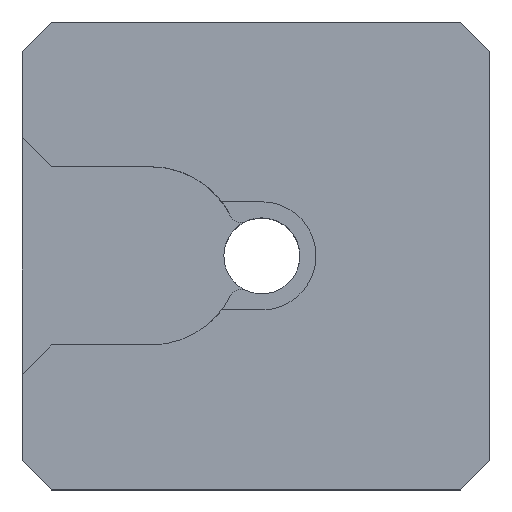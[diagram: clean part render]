
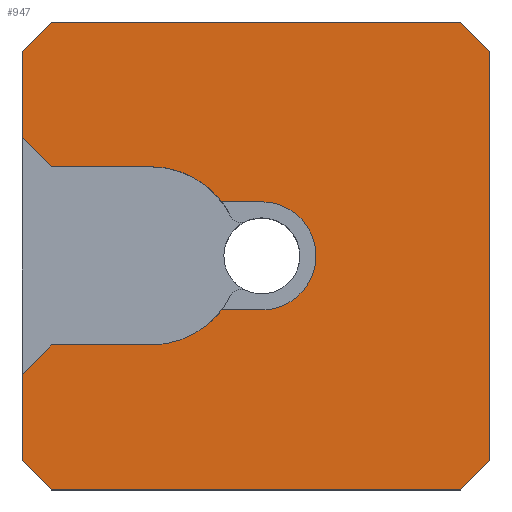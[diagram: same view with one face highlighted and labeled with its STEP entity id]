
A CAD part, top view. The second image highlights one B-rep face of the part: STEP entity #947.
In plain terms, the highlighted planar face has unit normal (0, 0, 1).
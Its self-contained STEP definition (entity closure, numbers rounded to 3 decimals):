
#48=AXIS2_PLACEMENT_3D('Circle Axis2P3D',#46,#47,$) ;
#55=AXIS2_PLACEMENT_3D('Circle Axis2P3D',#53,#54,$) ;
#419=AXIS2_PLACEMENT_3D('Circle Axis2P3D',#417,#418,$) ;
#426=AXIS2_PLACEMENT_3D('Circle Axis2P3D',#424,#425,$) ;
#449=AXIS2_PLACEMENT_3D('Circle Axis2P3D',#447,#448,$) ;
#475=AXIS2_PLACEMENT_3D('Circle Axis2P3D',#473,#474,$) ;
#917=AXIS2_PLACEMENT_3D('Plane Axis2P3D',#914,#915,#916) ;
#43=CARTESIAN_POINT('Vertex',(22.,-55.25,31.5)) ;
#46=CARTESIAN_POINT('Axis2P3D Location',(22.,-40.,31.5)) ;
#50=CARTESIAN_POINT('Vertex',(31.699,-51.768,31.5)) ;
#53=CARTESIAN_POINT('Axis2P3D Location',(22.,-40.,31.5)) ;
#57=CARTESIAN_POINT('Vertex',(34.124,-49.25,31.5)) ;
#262=CARTESIAN_POINT('Line Origine',(37.562,-49.25,31.5)) ;
#266=CARTESIAN_POINT('Vertex',(41.,-49.25,31.5)) ;
#395=CARTESIAN_POINT('Vertex',(22.,-24.75,31.5)) ;
#414=CARTESIAN_POINT('Vertex',(34.124,-30.75,31.5)) ;
#417=CARTESIAN_POINT('Axis2P3D Location',(22.,-40.,31.5)) ;
#421=CARTESIAN_POINT('Vertex',(31.699,-28.232,31.5)) ;
#424=CARTESIAN_POINT('Axis2P3D Location',(22.,-40.,31.5)) ;
#447=CARTESIAN_POINT('Axis2P3D Location',(41.,-40.,31.5)) ;
#451=CARTESIAN_POINT('Vertex',(50.25,-40.,31.5)) ;
#470=CARTESIAN_POINT('Vertex',(41.,-30.75,31.5)) ;
#473=CARTESIAN_POINT('Axis2P3D Location',(41.,-40.,31.5)) ;
#490=CARTESIAN_POINT('Line Origine',(37.562,-30.75,31.5)) ;
#513=CARTESIAN_POINT('Vertex',(5.,-24.75,31.5)) ;
#521=CARTESIAN_POINT('Line Origine',(13.5,-24.75,31.5)) ;
#538=CARTESIAN_POINT('Line Origine',(2.5,-22.25,31.5)) ;
#542=CARTESIAN_POINT('Vertex',(0.,-19.75,31.5)) ;
#611=CARTESIAN_POINT('Line Origine',(13.5,-55.25,31.5)) ;
#615=CARTESIAN_POINT('Vertex',(5.,-55.25,31.5)) ;
#639=CARTESIAN_POINT('Vertex',(0.,-60.25,31.5)) ;
#642=CARTESIAN_POINT('Line Origine',(2.5,-57.75,31.5)) ;
#659=CARTESIAN_POINT('Line Origine',(2.5,-77.5,31.5)) ;
#663=CARTESIAN_POINT('Vertex',(5.,-80.,31.5)) ;
#665=CARTESIAN_POINT('Vertex',(0.,-75.,31.5)) ;
#705=CARTESIAN_POINT('Vertex',(75.,-80.,31.5)) ;
#708=CARTESIAN_POINT('Line Origine',(40.,-80.,31.5)) ;
#741=CARTESIAN_POINT('Vertex',(80.,-75.,31.5)) ;
#744=CARTESIAN_POINT('Line Origine',(77.5,-77.5,31.5)) ;
#761=CARTESIAN_POINT('Line Origine',(80.,-40.,31.5)) ;
#765=CARTESIAN_POINT('Vertex',(80.,-5.,31.5)) ;
#792=CARTESIAN_POINT('Line Origine',(77.5,-2.5,31.5)) ;
#796=CARTESIAN_POINT('Vertex',(75.,0.,31.5)) ;
#830=CARTESIAN_POINT('Line Origine',(0.,-67.625,31.5)) ;
#835=CARTESIAN_POINT('Line Origine',(0.,-12.375,31.5)) ;
#839=CARTESIAN_POINT('Vertex',(0.,-5.,31.5)) ;
#869=CARTESIAN_POINT('Vertex',(5.,0.,31.5)) ;
#872=CARTESIAN_POINT('Line Origine',(40.,0.,31.5)) ;
#914=CARTESIAN_POINT('Axis2P3D Location',(0.,0.,31.5)) ;
#919=CARTESIAN_POINT('Line Origine',(2.5,-2.5,31.5)) ;
#47=DIRECTION('Axis2P3D Direction',(0.,0.,1.)) ;
#54=DIRECTION('Axis2P3D Direction',(0.,0.,1.)) ;
#263=DIRECTION('Vector Direction',(1.,0.,0.)) ;
#418=DIRECTION('Axis2P3D Direction',(0.,0.,1.)) ;
#425=DIRECTION('Axis2P3D Direction',(0.,0.,1.)) ;
#448=DIRECTION('Axis2P3D Direction',(0.,0.,1.)) ;
#474=DIRECTION('Axis2P3D Direction',(0.,0.,1.)) ;
#491=DIRECTION('Vector Direction',(-1.,0.,0.)) ;
#522=DIRECTION('Vector Direction',(-1.,0.,0.)) ;
#539=DIRECTION('Vector Direction',(-0.707,0.707,0.)) ;
#612=DIRECTION('Vector Direction',(-1.,0.,0.)) ;
#643=DIRECTION('Vector Direction',(-0.707,-0.707,0.)) ;
#660=DIRECTION('Vector Direction',(-0.707,0.707,0.)) ;
#709=DIRECTION('Vector Direction',(-1.,0.,0.)) ;
#745=DIRECTION('Vector Direction',(0.707,0.707,0.)) ;
#762=DIRECTION('Vector Direction',(0.,1.,0.)) ;
#793=DIRECTION('Vector Direction',(0.707,-0.707,0.)) ;
#831=DIRECTION('Vector Direction',(0.,-1.,0.)) ;
#836=DIRECTION('Vector Direction',(0.,-1.,0.)) ;
#873=DIRECTION('Vector Direction',(1.,0.,0.)) ;
#915=DIRECTION('Axis2P3D Direction',(0.,0.,1.)) ;
#916=DIRECTION('Axis2P3D XDirection',(1.,0.,0.)) ;
#920=DIRECTION('Vector Direction',(0.707,0.707,0.)) ;
#264=VECTOR('Line Direction',#263,1.) ;
#492=VECTOR('Line Direction',#491,1.) ;
#523=VECTOR('Line Direction',#522,1.) ;
#540=VECTOR('Line Direction',#539,1.) ;
#613=VECTOR('Line Direction',#612,1.) ;
#644=VECTOR('Line Direction',#643,1.) ;
#661=VECTOR('Line Direction',#660,1.) ;
#710=VECTOR('Line Direction',#709,1.) ;
#746=VECTOR('Line Direction',#745,1.) ;
#763=VECTOR('Line Direction',#762,1.) ;
#794=VECTOR('Line Direction',#793,1.) ;
#832=VECTOR('Line Direction',#831,1.) ;
#837=VECTOR('Line Direction',#836,1.) ;
#874=VECTOR('Line Direction',#873,1.) ;
#921=VECTOR('Line Direction',#920,1.) ;
#925=ORIENTED_EDGE('',*,*,#841,.T.) ;
#926=ORIENTED_EDGE('',*,*,#544,.F.) ;
#927=ORIENTED_EDGE('',*,*,#525,.F.) ;
#928=ORIENTED_EDGE('',*,*,#428,.F.) ;
#929=ORIENTED_EDGE('',*,*,#423,.F.) ;
#930=ORIENTED_EDGE('',*,*,#494,.F.) ;
#931=ORIENTED_EDGE('',*,*,#477,.F.) ;
#932=ORIENTED_EDGE('',*,*,#453,.F.) ;
#933=ORIENTED_EDGE('',*,*,#268,.F.) ;
#934=ORIENTED_EDGE('',*,*,#59,.F.) ;
#935=ORIENTED_EDGE('',*,*,#52,.F.) ;
#936=ORIENTED_EDGE('',*,*,#617,.T.) ;
#937=ORIENTED_EDGE('',*,*,#646,.F.) ;
#938=ORIENTED_EDGE('',*,*,#834,.T.) ;
#939=ORIENTED_EDGE('',*,*,#667,.F.) ;
#940=ORIENTED_EDGE('',*,*,#712,.F.) ;
#941=ORIENTED_EDGE('',*,*,#748,.F.) ;
#942=ORIENTED_EDGE('',*,*,#767,.T.) ;
#943=ORIENTED_EDGE('',*,*,#798,.F.) ;
#944=ORIENTED_EDGE('',*,*,#876,.F.) ;
#945=ORIENTED_EDGE('',*,*,#923,.F.) ;
#947=ADVANCED_FACE('\X2\96F64EF651E04F554F53\X0\',(#946),#918,.T.) ;
#49=CIRCLE('generated circle',#48,15.25) ;
#56=CIRCLE('generated circle',#55,15.25) ;
#420=CIRCLE('generated circle',#419,15.25) ;
#427=CIRCLE('generated circle',#426,15.25) ;
#450=CIRCLE('generated circle',#449,9.25) ;
#476=CIRCLE('generated circle',#475,9.25) ;
#52=EDGE_CURVE('',#44,#51,#49,.T.) ;
#59=EDGE_CURVE('',#51,#58,#56,.T.) ;
#268=EDGE_CURVE('',#58,#267,#265,.T.) ;
#423=EDGE_CURVE('',#415,#422,#420,.T.) ;
#428=EDGE_CURVE('',#422,#396,#427,.T.) ;
#453=EDGE_CURVE('',#267,#452,#450,.T.) ;
#477=EDGE_CURVE('',#452,#471,#476,.T.) ;
#494=EDGE_CURVE('',#471,#415,#493,.T.) ;
#525=EDGE_CURVE('',#396,#514,#524,.T.) ;
#544=EDGE_CURVE('',#514,#543,#541,.T.) ;
#617=EDGE_CURVE('',#44,#616,#614,.T.) ;
#646=EDGE_CURVE('',#640,#616,#645,.F.) ;
#667=EDGE_CURVE('',#664,#666,#662,.T.) ;
#712=EDGE_CURVE('',#706,#664,#711,.T.) ;
#748=EDGE_CURVE('',#742,#706,#747,.F.) ;
#767=EDGE_CURVE('',#742,#766,#764,.T.) ;
#798=EDGE_CURVE('',#797,#766,#795,.T.) ;
#834=EDGE_CURVE('',#640,#666,#833,.T.) ;
#841=EDGE_CURVE('',#840,#543,#838,.T.) ;
#876=EDGE_CURVE('',#870,#797,#875,.T.) ;
#923=EDGE_CURVE('',#840,#870,#922,.T.) ;
#924=EDGE_LOOP('',(#925,#926,#927,#928,#929,#930,#931,#932,#933,#934,#935,#936,#937,#938,#939,#940,#941,#942,#943,#944,#945)) ;
#946=FACE_OUTER_BOUND('',#924,.T.) ;
#265=LINE('Line',#262,#264) ;
#493=LINE('Line',#490,#492) ;
#524=LINE('Line',#521,#523) ;
#541=LINE('Line',#538,#540) ;
#614=LINE('Line',#611,#613) ;
#645=LINE('Line',#642,#644) ;
#662=LINE('Line',#659,#661) ;
#711=LINE('Line',#708,#710) ;
#747=LINE('Line',#744,#746) ;
#764=LINE('Line',#761,#763) ;
#795=LINE('Line',#792,#794) ;
#833=LINE('Line',#830,#832) ;
#838=LINE('Line',#835,#837) ;
#875=LINE('Line',#872,#874) ;
#922=LINE('Line',#919,#921) ;
#918=PLANE('',#917) ;
#44=VERTEX_POINT('',#43) ;
#51=VERTEX_POINT('',#50) ;
#58=VERTEX_POINT('',#57) ;
#267=VERTEX_POINT('',#266) ;
#396=VERTEX_POINT('',#395) ;
#415=VERTEX_POINT('',#414) ;
#422=VERTEX_POINT('',#421) ;
#452=VERTEX_POINT('',#451) ;
#471=VERTEX_POINT('',#470) ;
#514=VERTEX_POINT('',#513) ;
#543=VERTEX_POINT('',#542) ;
#616=VERTEX_POINT('',#615) ;
#640=VERTEX_POINT('',#639) ;
#664=VERTEX_POINT('',#663) ;
#666=VERTEX_POINT('',#665) ;
#706=VERTEX_POINT('',#705) ;
#742=VERTEX_POINT('',#741) ;
#766=VERTEX_POINT('',#765) ;
#797=VERTEX_POINT('',#796) ;
#840=VERTEX_POINT('',#839) ;
#870=VERTEX_POINT('',#869) ;
